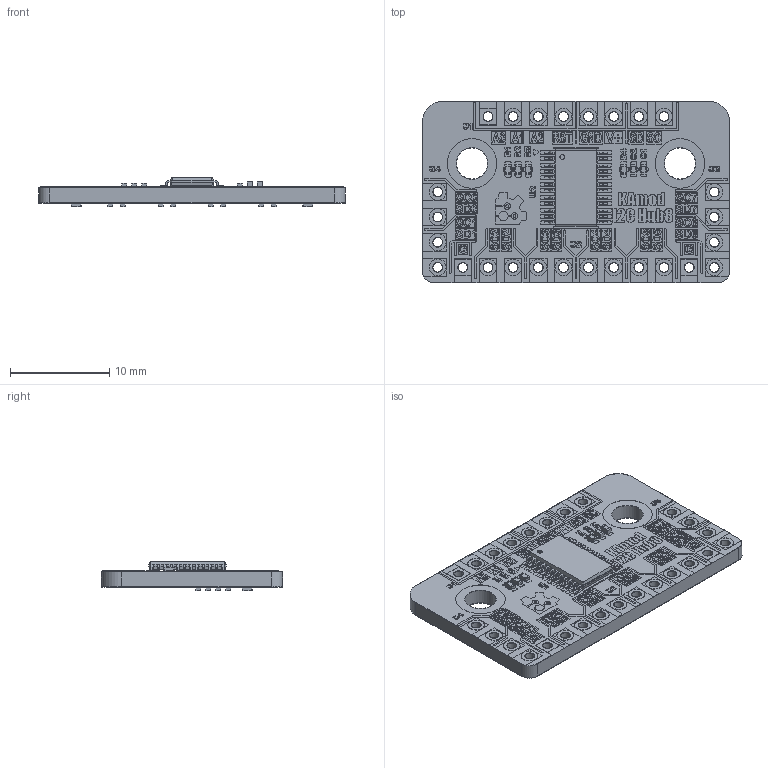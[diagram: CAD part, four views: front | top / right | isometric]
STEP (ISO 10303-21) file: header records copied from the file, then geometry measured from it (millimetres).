
FILE_DESCRIPTION(('KiCad electronic assembly'),'2;1');
FILE_NAME('KAmod I2C Multi.step','2025-04-04T15:24:42',('Pcbnew'),( 'Kicad'),'Open CASCADE STEP processor 7.8','KiCad to STEP converter' ,'Unknown');
FILE_SCHEMA(('AUTOMOTIVE_DESIGN { 1 0 10303 214 1 1 1 1 }'));
Length unit declared in the file: millimetre
Products named in the file (8): KAmod I2C Multi 1; C_0402_1005Metric; TSSOP-24_4.4x7.8mm_P0.65mm; R_0402_1005Metric; KAmod I2C Multi_pad; KAmod I2C Multi_silkscreen; KAmod I2C Multi_soldermask; KAmod I2C Multi_PCB
Assembly tree (27 placements, depth 2):
  KAmod I2C Multi 1
    C_0402_1005Metric  x2
    TSSOP-24_4.4x7.8mm_P0.65mm
    R_0402_1005Metric  x20
    KAmod I2C Multi_pad
    KAmod I2C Multi_silkscreen
    KAmod I2C Multi_soldermask
    KAmod I2C Multi_PCB
Bounding box: 30.99 x 18.29 x 3 mm (x, y, z)
Volume: 841.1 mm3; surface area: 3175.8 mm2
Topology: 176 solids, 390 shells, 2258 faces, 12778 edges, 11091 vertices
Faces by surface type: plane 1463, cylinder 747, bspline 48
Full cylindrical faces by diameter (mm): 0.5 x1, 0.95 x78, 1 x52, 1.7 x46, 3.15 x6, 3.2 x4, 5 x4
Entity records: 117021 total; most frequent: CARTESIAN_POINT 23561, DIRECTION 17393, ORIENTED_EDGE 14911, EDGE_CURVE 11414, VERTEX_POINT 10207, LINE 8803, VECTOR 8803, AXIS2_PLACEMENT_3D 4295
